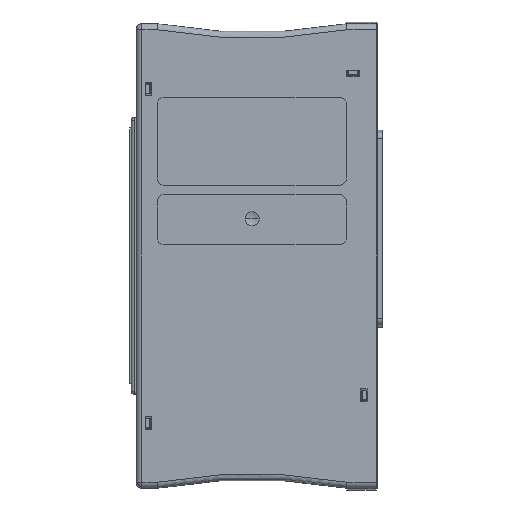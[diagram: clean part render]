
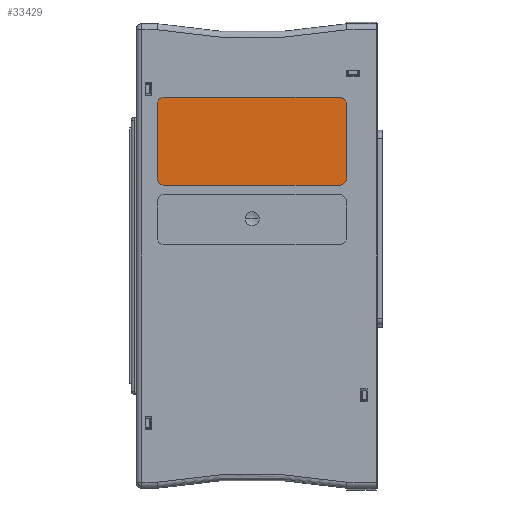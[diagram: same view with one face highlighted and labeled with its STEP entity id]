
A CAD part, front view. The second image highlights one B-rep face of the part: STEP entity #33429.
In plain terms, the highlighted planar face has unit normal (0, -1, 0).
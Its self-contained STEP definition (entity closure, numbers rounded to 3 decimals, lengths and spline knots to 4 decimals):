
#8561=CARTESIAN_POINT('',(-0.944,0.008,1.63));
#8562=DIRECTION('',(0.,-1.,0.));
#8563=DIRECTION('',(0.,0.,1.));
#8564=AXIS2_PLACEMENT_3D('',#8561,#8562,#8563);
#8566=DIRECTION('',(-1.,0.,0.));
#8567=VECTOR('',#8566,1.881);
#8568=CARTESIAN_POINT('',(0.937,0.008,1.71));
#8569=LINE('',#8568,#8567);
#8570=CARTESIAN_POINT('',(0.937,0.008,1.63));
#8571=DIRECTION('',(0.,-1.,0.));
#8572=DIRECTION('',(1.,0.,0.));
#8573=AXIS2_PLACEMENT_3D('',#8570,#8571,#8572);
#8575=DIRECTION('',(0.,0.,1.));
#8576=VECTOR('',#8575,0.788);
#8577=CARTESIAN_POINT('',(1.017,0.008,0.842));
#8578=LINE('',#8577,#8576);
#8579=CARTESIAN_POINT('',(0.937,0.008,0.842));
#8580=DIRECTION('',(0.,-1.,0.));
#8581=DIRECTION('',(0.,0.,-1.));
#8582=AXIS2_PLACEMENT_3D('',#8579,#8580,#8581);
#8584=DIRECTION('',(1.,0.,0.));
#8585=VECTOR('',#8584,1.881);
#8586=CARTESIAN_POINT('',(-0.944,0.008,0.762));
#8587=LINE('',#8586,#8585);
#8588=CARTESIAN_POINT('',(-0.944,0.008,0.842));
#8589=DIRECTION('',(0.,-1.,0.));
#8590=DIRECTION('',(-1.,0.,0.));
#8591=AXIS2_PLACEMENT_3D('',#8588,#8589,#8590);
#8593=DIRECTION('',(0.,0.,-1.));
#8594=VECTOR('',#8593,0.788);
#8595=CARTESIAN_POINT('',(-1.024,0.008,1.63));
#8596=LINE('',#8595,#8594);
#18401=CARTESIAN_POINT('',(-0.944,0.008,1.71));
#18402=CARTESIAN_POINT('',(-1.024,0.008,1.63));
#18403=VERTEX_POINT('',#18401);
#18404=VERTEX_POINT('',#18402);
#18405=CARTESIAN_POINT('',(-1.024,0.008,0.842));
#18406=VERTEX_POINT('',#18405);
#18407=CARTESIAN_POINT('',(-0.944,0.008,0.762));
#18408=VERTEX_POINT('',#18407);
#18409=CARTESIAN_POINT('',(0.937,0.008,0.762));
#18410=VERTEX_POINT('',#18409);
#18411=CARTESIAN_POINT('',(1.017,0.008,0.842));
#18412=VERTEX_POINT('',#18411);
#18413=CARTESIAN_POINT('',(1.017,0.008,1.63));
#18414=VERTEX_POINT('',#18413);
#18415=CARTESIAN_POINT('',(0.937,0.008,1.71));
#18416=VERTEX_POINT('',#18415);
#33414=CARTESIAN_POINT('',(0.,0.008,0.));
#33415=DIRECTION('',(0.,-1.,0.));
#33416=DIRECTION('',(1.,0.,0.));
#33417=AXIS2_PLACEMENT_3D('',#33414,#33415,#33416);
#33418=PLANE('',#33417);
#33419=ORIENTED_EDGE('',*,*,#33310,.F.);
#33420=ORIENTED_EDGE('',*,*,#33325,.F.);
#33421=ORIENTED_EDGE('',*,*,#33339,.F.);
#33422=ORIENTED_EDGE('',*,*,#33353,.F.);
#33423=ORIENTED_EDGE('',*,*,#33367,.F.);
#33424=ORIENTED_EDGE('',*,*,#33381,.F.);
#33425=ORIENTED_EDGE('',*,*,#33395,.F.);
#33426=ORIENTED_EDGE('',*,*,#33408,.F.);
#33427=EDGE_LOOP('',(#33419,#33420,#33421,#33422,#33423,#33424,#33425,#33426));
#33428=FACE_OUTER_BOUND('',#33427,.F.);
#33429=ADVANCED_FACE('',(#33428),#33418,.T.);
#8565=CIRCLE('',#8564,0.08);
#8574=CIRCLE('',#8573,0.08);
#8583=CIRCLE('',#8582,0.08);
#8592=CIRCLE('',#8591,0.08);
#33310=EDGE_CURVE('',#18403,#18404,#8565,.T.);
#33325=EDGE_CURVE('',#18416,#18403,#8569,.T.);
#33339=EDGE_CURVE('',#18414,#18416,#8574,.T.);
#33353=EDGE_CURVE('',#18412,#18414,#8578,.T.);
#33367=EDGE_CURVE('',#18410,#18412,#8583,.T.);
#33381=EDGE_CURVE('',#18408,#18410,#8587,.T.);
#33395=EDGE_CURVE('',#18406,#18408,#8592,.T.);
#33408=EDGE_CURVE('',#18404,#18406,#8596,.T.);
